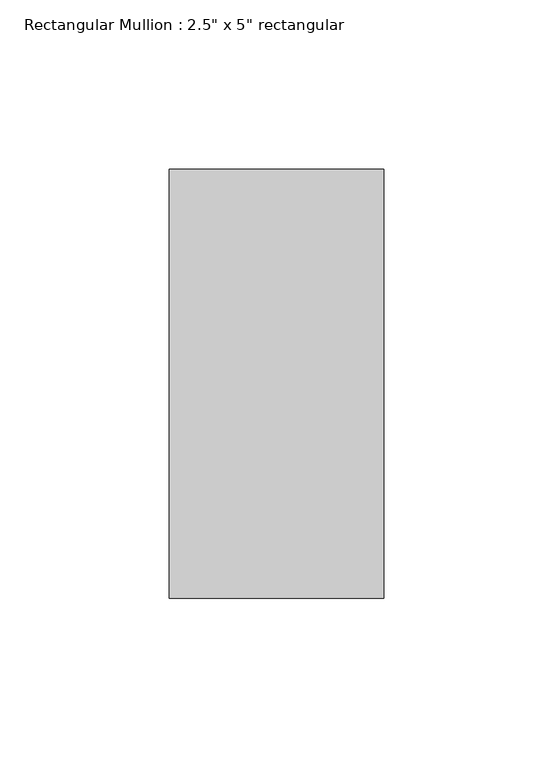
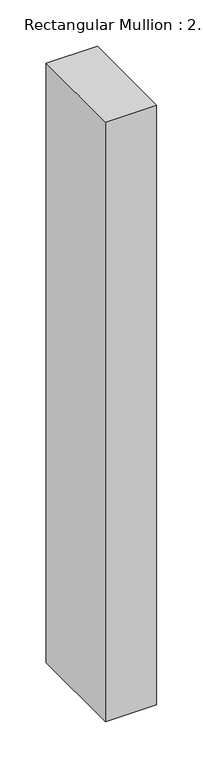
"""IFC4 building model written with IfcOpenShell, lengths in millimetres: member geometry."""

from ifc_helpers import new_model, si_unit, frame, origin, place, context, project, spatial, polyline, outline, extrude, source, transform, mapped, element, save


def member_b671752e(model_context):
    return source(origin(), model_context, "Body", "SweptSolid", [
        extrude(outline(polyline([(31.75, 63.5), (31.75, -63.5), (-31.75, -63.5), (-31.75, 63.5), (31.75, 63.5)])), frame((0.0, 0.0, -786.8845578), z_axis=(0.0, 0.0, 1.0), x_axis=(1.0, 0.0, 0.0)), (0.0, 0.0, 1.0), 786.8845578),
    ])


if __name__ == "__main__":
    model = new_model("IFC4")
    model_context = context("Model", 3, world=origin())
    ifc_project = project(units=[si_unit("LENGTHUNIT", "METRE", prefix="MILLI")], contexts=[model_context])
    site = spatial("IfcSite", under=ifc_project)
    building = spatial("IfcBuilding", under=site)
    placement = place(None, origin())
    member_shape = member_b671752e(model_context)
    element("IfcMember", 1, ObjectType="Rectangular Mullion : 2.5\" x 5\" rectangular", at=placement, inside=building, context=model_context, shape_type="MappedRepresentation", body=[
        mapped(member_shape, transform((0.0, 0.0, 0.0), x_axis=(1.0, 0.0, 0.0), y_axis=(0.0, 1.0, 0.0), z_axis=(0.0, 0.0, 1.0))),
    ])
    save(model, "model.ifc")
